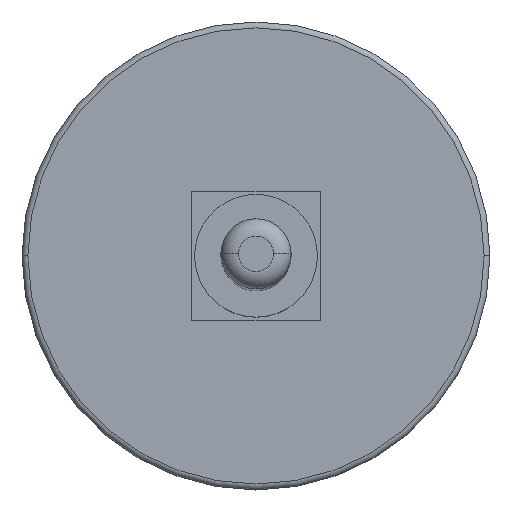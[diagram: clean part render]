
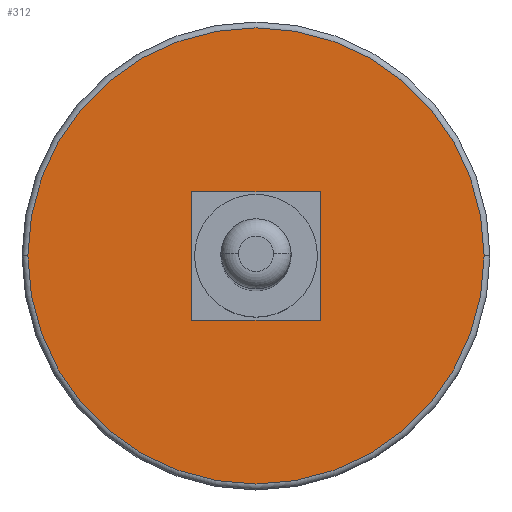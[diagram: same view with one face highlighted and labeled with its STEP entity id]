
A CAD part, top view. The second image highlights one B-rep face of the part: STEP entity #312.
In plain terms, the highlighted planar face has unit normal (0, 0, 1).
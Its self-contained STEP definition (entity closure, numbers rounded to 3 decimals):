
#1 = ORIENTED_EDGE ( 'NONE', *, *, #20, .T. ) ;
#3 = CARTESIAN_POINT ( 'NONE',  ( -11., 11., 10.5 ) ) ;
#20 = EDGE_CURVE ( 'NONE', #76, #120, #367, .T. ) ;
#33 = DIRECTION ( 'NONE',  ( 0., 0., 1. ) ) ;
#34 = VERTEX_POINT ( 'NONE', #83 ) ;
#43 = AXIS2_PLACEMENT_3D ( 'NONE', #524, #578, #112 ) ;
#44 = CARTESIAN_POINT ( 'NONE',  ( 39., 0., 10.5 ) ) ;
#68 = CARTESIAN_POINT ( 'NONE',  ( 11., 11., 10.5 ) ) ;
#76 = VERTEX_POINT ( 'NONE', #271 ) ;
#83 = CARTESIAN_POINT ( 'NONE',  ( 11., -11., 10.5 ) ) ;
#101 = CARTESIAN_POINT ( 'NONE',  ( -11., 11., 10.5 ) ) ;
#112 = DIRECTION ( 'NONE',  ( 1., 0., 0. ) ) ;
#120 = VERTEX_POINT ( 'NONE', #44 ) ;
#131 = ORIENTED_EDGE ( 'NONE', *, *, #424, .F. ) ;
#133 = DIRECTION ( 'NONE',  ( 1., 0., 0. ) ) ;
#137 = VERTEX_POINT ( 'NONE', #3 ) ;
#139 = VECTOR ( 'NONE', #236, 1000. ) ;
#145 = EDGE_LOOP ( 'NONE', ( #450, #1 ) ) ;
#153 = AXIS2_PLACEMENT_3D ( 'NONE', #313, #33, #586 ) ;
#161 = VERTEX_POINT ( 'NONE', #375 ) ;
#162 = EDGE_CURVE ( 'NONE', #137, #161, #550, .T. ) ;
#165 = LINE ( 'NONE', #487, #239 ) ;
#166 = FACE_OUTER_BOUND ( 'NONE', #145, .T. ) ;
#167 = AXIS2_PLACEMENT_3D ( 'NONE', #546, #452, #133 ) ;
#174 = DIRECTION ( 'NONE',  ( 1., 0., 0. ) ) ;
#182 = ORIENTED_EDGE ( 'NONE', *, *, #397, .F. ) ;
#213 = LINE ( 'NONE', #216, #503 ) ;
#216 = CARTESIAN_POINT ( 'NONE',  ( 11., 11., 10.5 ) ) ;
#236 = DIRECTION ( 'NONE',  ( 0., -1., 0. ) ) ;
#239 = VECTOR ( 'NONE', #174, 1000. ) ;
#271 = CARTESIAN_POINT ( 'NONE',  ( -39., 0., 10.5 ) ) ;
#303 = VERTEX_POINT ( 'NONE', #68 ) ;
#306 = DIRECTION ( 'NONE',  ( 0., 1., 0. ) ) ;
#312 = ADVANCED_FACE ( 'NONE', ( #166, #520 ), #380, .T. ) ;
#313 = CARTESIAN_POINT ( 'NONE',  ( 0., 0., 10.5 ) ) ;
#316 = EDGE_LOOP ( 'NONE', ( #182, #131, #583, #442 ) ) ;
#367 = CIRCLE ( 'NONE', #153, 39. ) ;
#375 = CARTESIAN_POINT ( 'NONE',  ( -11., -11., 10.5 ) ) ;
#379 = EDGE_CURVE ( 'NONE', #120, #76, #522, .T. ) ;
#380 = PLANE ( 'NONE',  #43 ) ;
#385 = LINE ( 'NONE', #480, #433 ) ;
#397 = EDGE_CURVE ( 'NONE', #34, #303, #213, .T. ) ;
#424 = EDGE_CURVE ( 'NONE', #161, #34, #165, .T. ) ;
#433 = VECTOR ( 'NONE', #525, 1000. ) ;
#442 = ORIENTED_EDGE ( 'NONE', *, *, #593, .F. ) ;
#450 = ORIENTED_EDGE ( 'NONE', *, *, #379, .T. ) ;
#452 = DIRECTION ( 'NONE',  ( 0., 0., 1. ) ) ;
#480 = CARTESIAN_POINT ( 'NONE',  ( -11., 11., 10.5 ) ) ;
#487 = CARTESIAN_POINT ( 'NONE',  ( -11., -11., 10.5 ) ) ;
#503 = VECTOR ( 'NONE', #306, 1000. ) ;
#520 = FACE_BOUND ( 'NONE', #316, .T. ) ;
#522 = CIRCLE ( 'NONE', #167, 39. ) ;
#524 = CARTESIAN_POINT ( 'NONE',  ( 0., 0., 10.5 ) ) ;
#525 = DIRECTION ( 'NONE',  ( -1., 0., 0. ) ) ;
#546 = CARTESIAN_POINT ( 'NONE',  ( 0., 0., 10.5 ) ) ;
#550 = LINE ( 'NONE', #101, #139 ) ;
#578 = DIRECTION ( 'NONE',  ( 0., 0., 1. ) ) ;
#583 = ORIENTED_EDGE ( 'NONE', *, *, #162, .F. ) ;
#586 = DIRECTION ( 'NONE',  ( 1., 0., 0. ) ) ;
#593 = EDGE_CURVE ( 'NONE', #303, #137, #385, .T. ) ;
